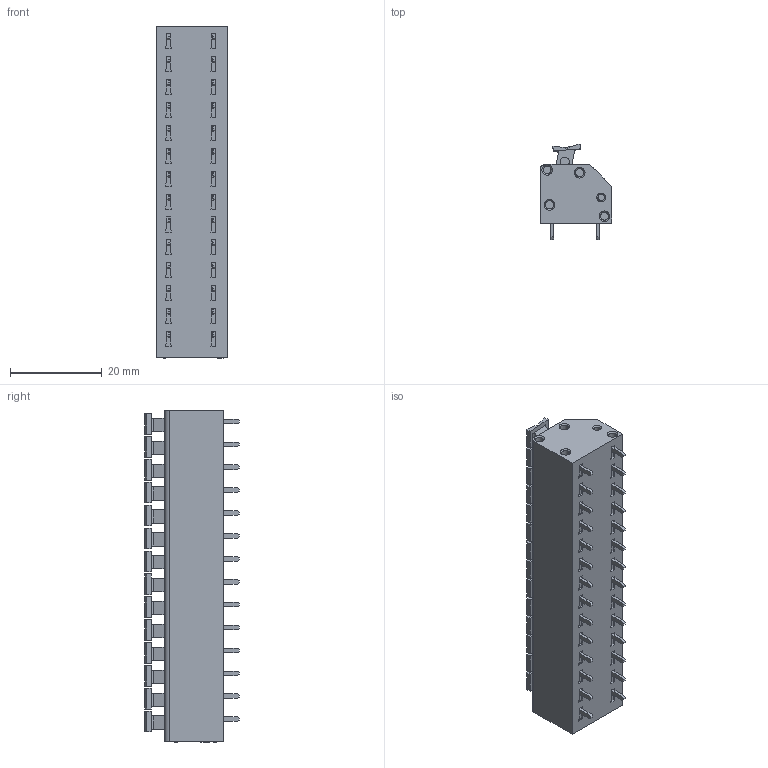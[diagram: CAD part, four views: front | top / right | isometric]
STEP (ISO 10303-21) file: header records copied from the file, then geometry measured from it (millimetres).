
FILE_DESCRIPTION (( 'STEP AP214' ), '1' );
FILE_NAME ('874-DR-14.STEP', '2007-11-28T03:39:20', ( ' ' ), ( '' ), 'SwSTEP 2.0', 'SolidWorks 2007', '' );
FILE_SCHEMA (( 'AUTOMOTIVE_DESIGN' ));
Length unit declared in the file: millimetre
Products named in the file (1): 874-DR-14
Bounding box: 15.6 x 20.69 x 72.5 mm (x, y, z)
Volume: 13420.3 mm3; surface area: 7408.3 mm2
Topology: 1 solids, 1 shells, 1145 faces, 3038 edges, 1977 vertices
Faces by surface type: plane 868, cylinder 159, bspline 84, cone 34
Entity records: 42254 total; most frequent: CARTESIAN_POINT 14740, ORIENTED_EDGE 5992, DIRECTION 5066, EDGE_CURVE 2996, VECTOR 2254, LINE 2254, VERTEX_POINT 1977, AXIS2_PLACEMENT_3D 1406
